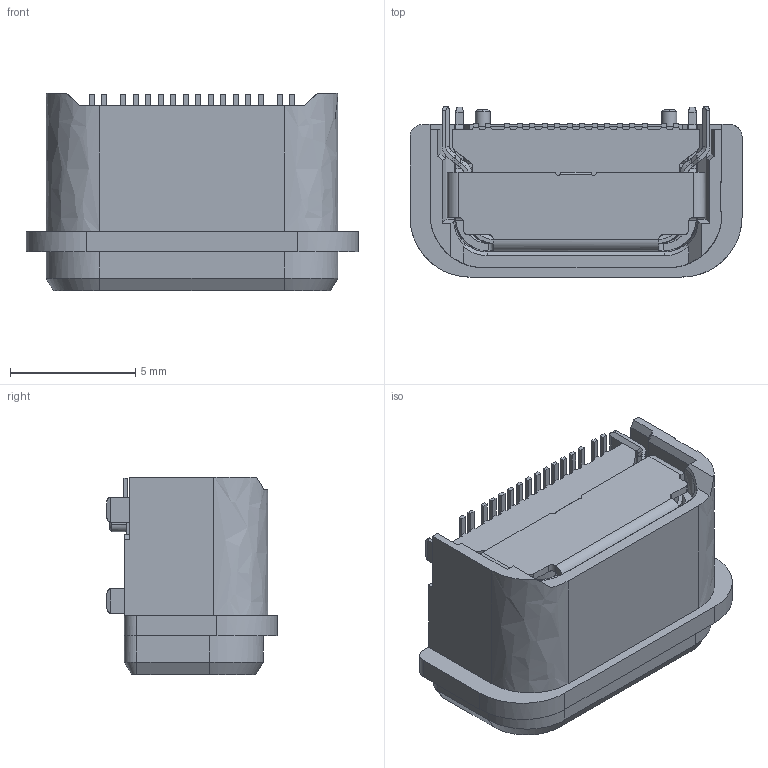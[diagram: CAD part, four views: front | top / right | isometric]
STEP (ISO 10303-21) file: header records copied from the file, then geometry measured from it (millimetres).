
FILE_DESCRIPTION (( 'STEP AP214' ), '1' );
FILE_NAME ('U5184-16PN1.6G7.9L.STEP', '2026-07-29T02:08:40', ( '' ), ( '' ), 'SwSTEP 2.0', 'SolidWorks 2024', '' );
FILE_SCHEMA (( 'AUTOMOTIVE_DESIGN' ));
Length unit declared in the file: millimetre
Products named in the file (1): U5184-16PN1.6G7.9L
Bounding box: 13.27 x 6.79 x 7.9 mm (x, y, z)
Surface area: 1671.2 mm2 (no closed solid volume)
Topology: 0 solids, 49 shells, 2083 faces, 6110 edges, 4023 vertices
Faces by surface type: bspline 2083
Entity records: 67088 total; most frequent: CARTESIAN_POINT 31756, ORIENTED_EDGE 11872, EDGE_CURVE 6108, B_SPLINE_CURVE_WITH_KNOTS 5434, VERTEX_POINT 4023, EDGE_LOOP 2145, FACE_OUTER_BOUND 2083, ADVANCED_FACE 2083
